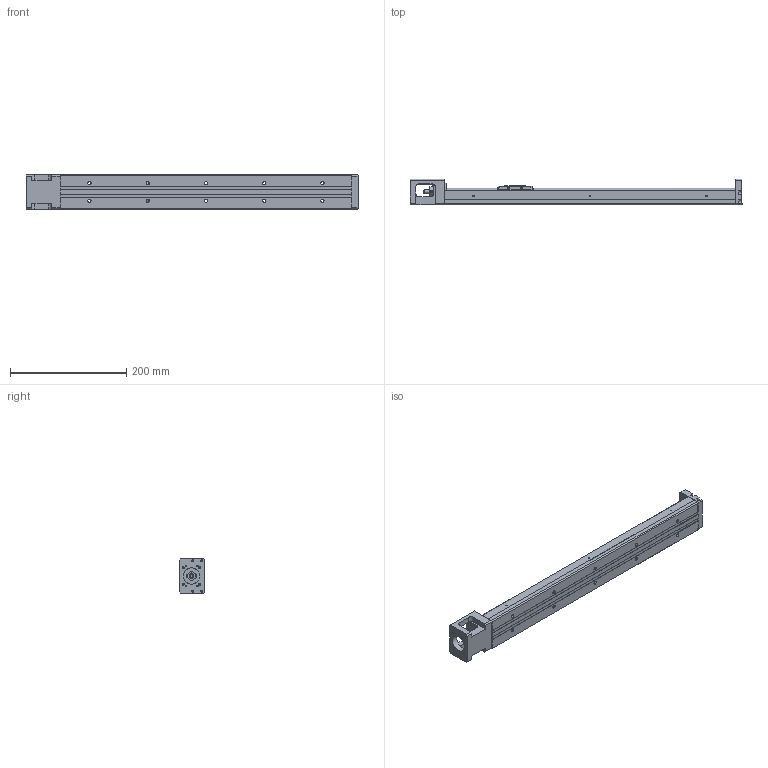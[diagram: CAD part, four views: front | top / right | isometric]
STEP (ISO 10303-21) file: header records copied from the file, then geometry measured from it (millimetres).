
FILE_DESCRIPTION(/* description */ (''),/* implementation_level */ '2;1');
FILE_NAME(/* name */ 'KP33S-500.stp',/* time_stamp */ '2020-06-04T18:03:12+08:00',/* author */ (''),/* organization */ (''),/* preprocessor_version */ 'ST-DEVELOPER v14',/* originating_system */ 'SIEMENS PLM Software NX 8.0',/* authorisation */ '');
FILE_SCHEMA (('AUTOMOTIVE_DESIGN { 1 0 10303 214 3 1 1 1 }'));
Length unit declared in the file: millimetre
Products named in the file (1): model1
Bounding box: 570 x 44.45 x 60 mm (x, y, z)
Volume: 597751.5 mm3; surface area: 169271.3 mm2
Topology: 5 solids, 14 shells, 642 faces, 1635 edges, 1075 vertices
Faces by surface type: plane 372, cylinder 185, bspline 31, cone 22, extrusion 21, torus 9, revolution 2
Full cylindrical faces by diameter (mm): 1.6 x3, 1.65 x4, 2.15 x3, 2.42 x4, 2.45 x4, 2.5 x12, 3.2 x4, 3.3 x4, 3.4 x4, 3.5 x10, 3.969 x1, 4 x4, 4.001 x1, 4.135 x2, 5.5 x10, 6 x5, 7.6 x1, 8 x5, 9.5 x10, 10.72 x3, 11.8 x2, 12 x6, 12.8 x1, 13 x2, 14 x1, 17.38 x3, 21.5 x1, 22 x2, 28 x1
Entity records: 34118 total; most frequent: CARTESIAN_POINT 16232, DIRECTION 2906, ORIENTED_EDGE 2838, EDGE_CURVE 1419, AXIS2_PLACEMENT_3D 1031, VERTEX_POINT 1005, EDGE_LOOP 908, VECTOR 842
